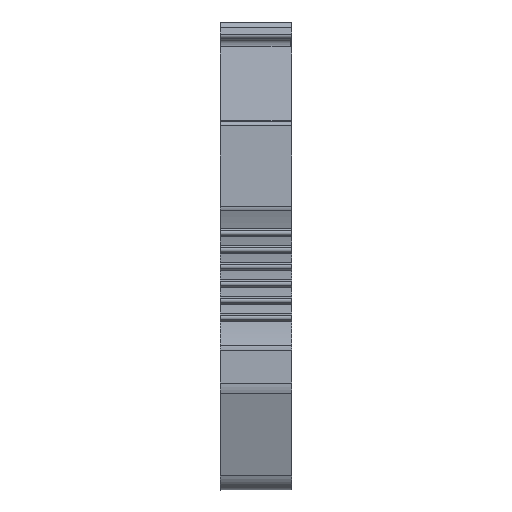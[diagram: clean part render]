
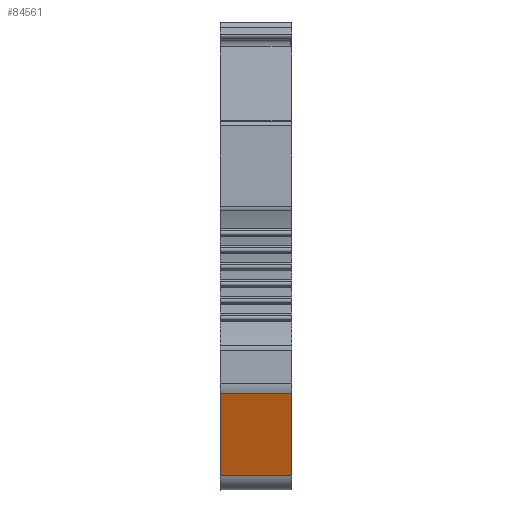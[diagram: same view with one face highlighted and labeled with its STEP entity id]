
A CAD part, front view. The second image highlights one B-rep face of the part: STEP entity #84561.
In plain terms, the highlighted planar face has unit normal (0, -0.951, -0.309).
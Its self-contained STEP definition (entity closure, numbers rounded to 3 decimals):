
#84561 = ADVANCED_FACE('',(#84562),#84576,.F.);
#84562 = FACE_BOUND('',#84563,.T.);
#84563 = EDGE_LOOP('',(#84564,#84587,#84603,#84619));
#84564 = ORIENTED_EDGE('',*,*,#84565,.F.);
#84565 = EDGE_CURVE('',#84566,#84568,#84570,.T.);
#84566 = VERTEX_POINT('',#84567);
#84567 = CARTESIAN_POINT('',(0.768,-36.564,
    27.045));
#84568 = VERTEX_POINT('',#84569);
#84569 = CARTESIAN_POINT('',(5.968,-36.564,
    27.045));
#84570 = SURFACE_CURVE('',#84571,(#84575),.PCURVE_S1.);
#84571 = LINE('',#84572,#84573);
#84572 = CARTESIAN_POINT('',(3.368,-36.564,
    27.045));
#84573 = VECTOR('',#84574,1.);
#84574 = DIRECTION('',(1.,0.,0.));
#84575 = PCURVE('',#84576,#84581);
#84576 = PLANE('',#84577);
#84577 = AXIS2_PLACEMENT_3D('',#84578,#84579,#84580);
#84578 = CARTESIAN_POINT('',(0.768,-34.275,
    20.));
#84579 = DIRECTION('',(0.,0.951,0.309));
#84580 = DIRECTION('',(0.,0.309,-0.951));
#84581 = DEFINITIONAL_REPRESENTATION('',(#84582),#84586);
#84582 = LINE('',#84583,#84584);
#84583 = CARTESIAN_POINT('',(-7.408,-2.6));
#84584 = VECTOR('',#84585,1.);
#84585 = DIRECTION('',(0.,-1.));
#84586 = ( GEOMETRIC_REPRESENTATION_CONTEXT(2) 
PARAMETRIC_REPRESENTATION_CONTEXT() REPRESENTATION_CONTEXT('2D SPACE',''
  ) );
#84587 = ORIENTED_EDGE('',*,*,#84588,.F.);
#84588 = EDGE_CURVE('',#84589,#84566,#84591,.T.);
#84589 = VERTEX_POINT('',#84590);
#84590 = CARTESIAN_POINT('',(0.768,-34.612,
    21.036));
#84591 = SURFACE_CURVE('',#84592,(#84596),.PCURVE_S1.);
#84592 = LINE('',#84593,#84594);
#84593 = CARTESIAN_POINT('',(0.768,-35.588,
    24.041));
#84594 = VECTOR('',#84595,1.);
#84595 = DIRECTION('',(0.,-0.309,0.951));
#84596 = PCURVE('',#84576,#84597);
#84597 = DEFINITIONAL_REPRESENTATION('',(#84598),#84602);
#84598 = LINE('',#84599,#84600);
#84599 = CARTESIAN_POINT('',(-4.249,0.));
#84600 = VECTOR('',#84601,1.);
#84601 = DIRECTION('',(-1.,0.));
#84602 = ( GEOMETRIC_REPRESENTATION_CONTEXT(2) 
PARAMETRIC_REPRESENTATION_CONTEXT() REPRESENTATION_CONTEXT('2D SPACE',''
  ) );
#84603 = ORIENTED_EDGE('',*,*,#84604,.T.);
#84604 = EDGE_CURVE('',#84589,#84605,#84607,.T.);
#84605 = VERTEX_POINT('',#84606);
#84606 = CARTESIAN_POINT('',(5.968,-34.612,
    21.036));
#84607 = SURFACE_CURVE('',#84608,(#84612),.PCURVE_S1.);
#84608 = LINE('',#84609,#84610);
#84609 = CARTESIAN_POINT('',(3.368,-34.612,
    21.036));
#84610 = VECTOR('',#84611,1.);
#84611 = DIRECTION('',(1.,0.,0.));
#84612 = PCURVE('',#84576,#84613);
#84613 = DEFINITIONAL_REPRESENTATION('',(#84614),#84618);
#84614 = LINE('',#84615,#84616);
#84615 = CARTESIAN_POINT('',(-1.09,-2.6));
#84616 = VECTOR('',#84617,1.);
#84617 = DIRECTION('',(0.,-1.));
#84618 = ( GEOMETRIC_REPRESENTATION_CONTEXT(2) 
PARAMETRIC_REPRESENTATION_CONTEXT() REPRESENTATION_CONTEXT('2D SPACE',''
  ) );
#84619 = ORIENTED_EDGE('',*,*,#84620,.T.);
#84620 = EDGE_CURVE('',#84605,#84568,#84621,.T.);
#84621 = SURFACE_CURVE('',#84622,(#84626),.PCURVE_S1.);
#84622 = LINE('',#84623,#84624);
#84623 = CARTESIAN_POINT('',(5.968,-35.588,
    24.041));
#84624 = VECTOR('',#84625,1.);
#84625 = DIRECTION('',(0.,-0.309,0.951));
#84626 = PCURVE('',#84576,#84627);
#84627 = DEFINITIONAL_REPRESENTATION('',(#84628),#84632);
#84628 = LINE('',#84629,#84630);
#84629 = CARTESIAN_POINT('',(-4.249,-5.2));
#84630 = VECTOR('',#84631,1.);
#84631 = DIRECTION('',(-1.,0.));
#84632 = ( GEOMETRIC_REPRESENTATION_CONTEXT(2) 
PARAMETRIC_REPRESENTATION_CONTEXT() REPRESENTATION_CONTEXT('2D SPACE',''
  ) );
